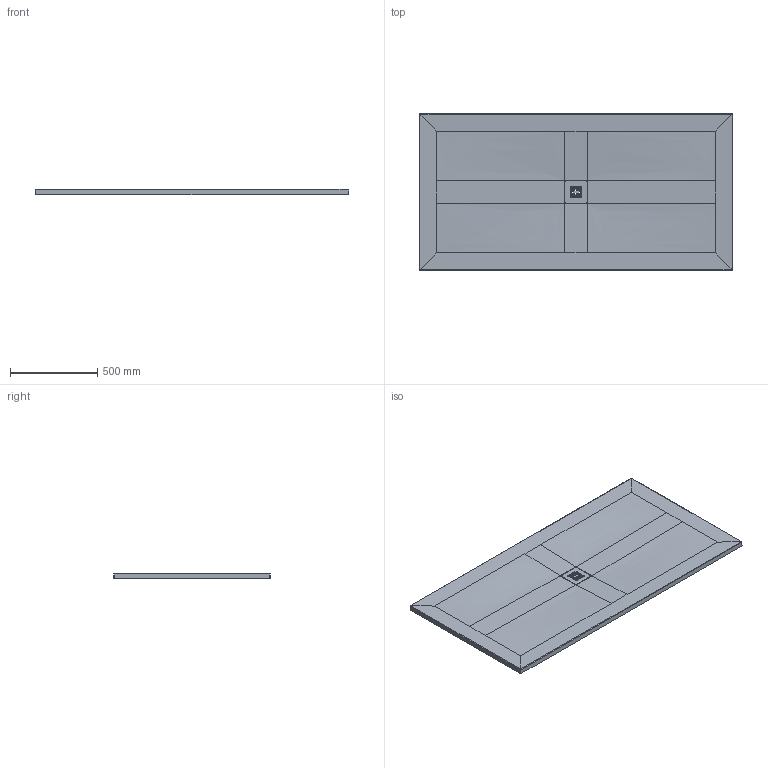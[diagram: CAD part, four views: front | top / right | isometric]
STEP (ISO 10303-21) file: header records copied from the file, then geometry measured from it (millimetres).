
FILE_DESCRIPTION(/* description */ (''),/* implementation_level */ '2;1');
FILE_NAME(/* name */ '720289',/* time_stamp */ '2022-02-10T09:21:54+01:00',/* author */ (''),/* organization */ (''),/* preprocessor_version */ 'ST-DEVELOPER v15',/* originating_system */ '',/* authorisation */ '');
FILE_SCHEMA (('AUTOMOTIVE_DESIGN'));
Length unit declared in the file: millimetre
Products named in the file (1): Document
Bounding box: 1800 x 900 x 30 mm (x, y, z)
Volume: 21067.4 mm3; surface area: 1785173 mm2
Topology: 1 solids, 2 shells, 116 faces, 320 edges, 206 vertices
Faces by surface type: bspline 62, plane 54
Entity records: 7226 total; most frequent: CARTESIAN_POINT 5167, ORIENTED_EDGE 608, EDGE_CURVE 320, B_SPLINE_CURVE_WITH_KNOTS 300, VERTEX_POINT 206, EDGE_LOOP 136, ADVANCED_FACE 116, FACE_OUTER_BOUND 116
